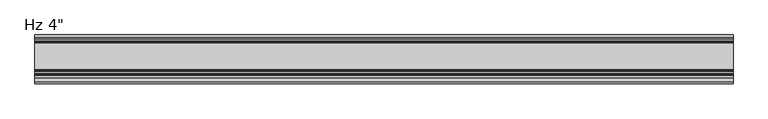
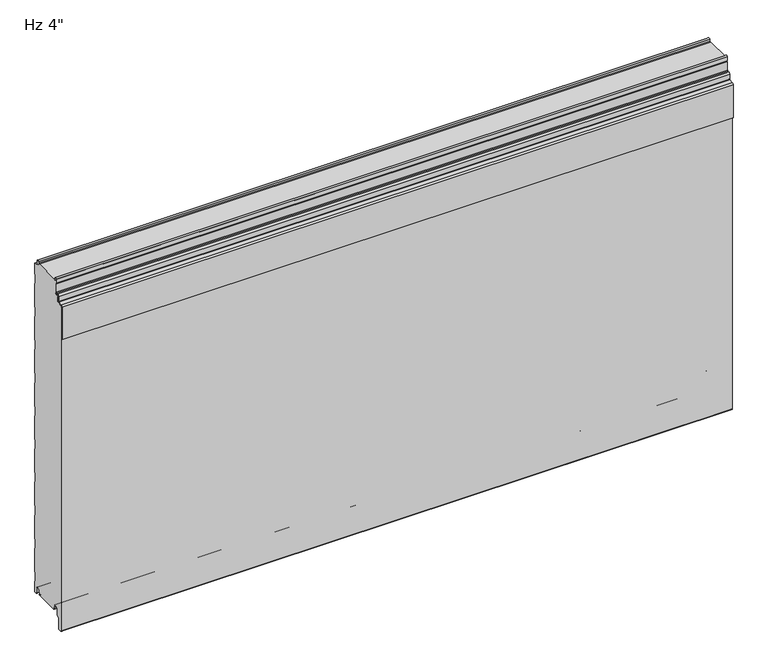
"""IFC4 building model written with IfcOpenShell, lengths in millimetres: plate geometry."""

from ifc_helpers import new_model, si_unit, frame, origin, place, context, project, spatial, polyline, circle_curve, source, transform, mapped, element, save
from ifc_brep_helpers import plane_surface, cylinder_surface, revolved_surface, advanced_brep


def plate_fbe25f83(model_context):
    return source(origin(), model_context, "Body", "AdvancedBrep", [
        advanced_brep(
        [(730.0, -80.5008679, 735.9534183), (730.0, -80.5008679, 754.6986183), (730.0, -82.0248679, 754.6986183), (730.0, -82.0248679, 735.9534183), (730.0, -83.5488679, 734.4294183), (730.0, -86.6476679, 734.4294183), (730.0, -90.1020679, 730.9750183), (730.0, -90.1020679, 719.762461), (730.0, -90.7976552, 719.0033606), (730.0, -100.3416507, 717.808533), (730.0, -103.124, 714.7721316), (730.0, -103.1360323, 639.2048183), (730.0, -101.6, 639.2048183), (730.0, -101.6, 714.7721316), (730.0, -100.2088254, 716.2903323), (730.0, -90.6648299, 717.4851599), (730.0, -88.5780679, 719.762461), (730.0, -88.5780679, 730.9750183), (730.0, -86.6476679, 732.9054183), (730.0, -83.5488679, 732.9054183), (-730.0, -80.5008679, 735.9534183), (-730.0, -83.5488679, 732.9054183), (-730.0, -86.6476679, 732.9054183), (-730.0, -88.5780679, 730.9750183), (-730.0, -88.5780679, 719.762461), (-730.0, -90.6648299, 717.4851599), (-730.0, -100.2088254, 716.2903323), (-730.0, -101.6, 714.7721316), (-730.0, -101.6, 639.2048183), (-730.0, -103.1360323, 639.2048183), (-730.0, -103.1360323, 714.7721316), (-730.0, -100.3416507, 717.808533), (-730.0, -90.7976552, 719.0033606), (-730.0, -90.1020679, 719.762461), (-730.0, -90.1020679, 730.9750183), (-730.0, -86.6476679, 734.4294183), (-730.0, -83.5488679, 734.4294183), (-730.0, -82.0248679, 735.9534183), (-730.0, -82.0248679, 754.6986183), (-730.0, -80.5008679, 754.6986183)],
        [
            (0, 1),
            (1, 2),
            (2, 3),
            (3, 4, circle_curve(frame((730.0, -83.5488679, 735.9534183), z_axis=(-1.0, 0.0, 0.0), x_axis=(0.0, 1.0, 0.0)), 1.524)),
            (4, 5),
            (5, 6, circle_curve(frame((730.0, -86.6476679, 730.9750183), z_axis=(1.0, 0.0, 0.0), x_axis=(0.0, 1.0, 0.0)), 3.4544)),
            (6, 7),
            (7, 8, circle_curve(frame((730.0, -90.8640679, 719.762461), z_axis=(-1.0, 0.0, 0.0), x_axis=(0.0, 1.0, 0.0)), 0.762)),
            (8, 9),
            (9, 10, circle_curve(frame((730.0, -100.076, 714.7721316), z_axis=(1.0, 0.0, 0.0), x_axis=(0.0, 1.0, 0.0)), 3.048)),
            (10, 11),
            (11, 12),
            (12, 13),
            (13, 14, circle_curve(frame((730.0, -100.076, 714.7721316), z_axis=(-1.0, 0.0, 0.0), x_axis=(0.0, 1.0, 0.0)), 1.524)),
            (14, 15),
            (15, 16, circle_curve(frame((730.0, -90.8640679, 719.762461), z_axis=(1.0, 0.0, 0.0), x_axis=(0.0, 1.0, 0.0)), 2.286)),
            (16, 17),
            (17, 18, circle_curve(frame((730.0, -86.6476679, 730.9750183), z_axis=(-1.0, 0.0, 0.0), x_axis=(0.0, 1.0, 0.0)), 1.9304)),
            (18, 19),
            (19, 0, circle_curve(frame((730.0, -83.5488679, 735.9534183), z_axis=(1.0, 0.0, 0.0), x_axis=(0.0, 1.0, 0.0)), 3.048)),
            (20, 21, circle_curve(frame((-730.0, -83.5488679, 735.9534183), z_axis=(-1.0, 0.0, 0.0), x_axis=(0.0, 1.0, 0.0)), 3.048)),
            (21, 22),
            (22, 23, circle_curve(frame((-730.0, -86.6476679, 730.9750183), z_axis=(1.0, 0.0, 0.0), x_axis=(0.0, 1.0, 0.0)), 1.9304)),
            (23, 24),
            (24, 25, circle_curve(frame((-730.0, -90.8640679, 719.762461), z_axis=(-1.0, 0.0, 0.0), x_axis=(0.0, 1.0, 0.0)), 2.286)),
            (25, 26),
            (26, 27, circle_curve(frame((-730.0, -100.076, 714.7721316), z_axis=(1.0, 0.0, 0.0), x_axis=(0.0, 1.0, 0.0)), 1.524)),
            (27, 28),
            (28, 29),
            (29, 30),
            (30, 31, circle_curve(frame((-730.0, -100.076, 714.7721316), z_axis=(-1.0, 0.0, 0.0), x_axis=(0.0, 1.0, 0.0)), 3.048)),
            (31, 32),
            (32, 33, circle_curve(frame((-730.0, -90.8640679, 719.762461), z_axis=(1.0, 0.0, 0.0), x_axis=(0.0, 1.0, 0.0)), 0.762)),
            (33, 34),
            (34, 35, circle_curve(frame((-730.0, -86.6476679, 730.9750183), z_axis=(-1.0, 0.0, 0.0), x_axis=(0.0, 1.0, 0.0)), 3.4544)),
            (35, 36),
            (36, 37, circle_curve(frame((-730.0, -83.5488679, 735.9534183), z_axis=(1.0, 0.0, 0.0), x_axis=(0.0, 1.0, 0.0)), 1.524)),
            (37, 38),
            (38, 39),
            (39, 20),
            (2, 38),
            (37, 3),
            (15, 25),
            (24, 16),
            (7, 33),
            (32, 8),
            (5, 35),
            (34, 6),
            (1, 39),
            (36, 4),
            (9, 31),
            (30, 10),
            (13, 27),
            (26, 14),
            (0, 20),
            (12, 28),
            (29, 11),
            (23, 17),
            (18, 22),
            (21, 19),
        ],
        [
            plane_surface(frame((730.0, -101.6, 754.6986183), z_axis=(1.0, 0.0, 0.0), x_axis=(0.0, 0.0, -1.0))),
            plane_surface(frame((-730.0, -101.6, 754.6986183), z_axis=(-1.0, 0.0, 0.0), x_axis=(0.0, 0.0, -1.0))),
            plane_surface(frame((730.0, -82.0248679, 735.9534183), z_axis=(0.0, -1.0, 0.0), x_axis=(-1.0, 0.0, 0.0))),
            cylinder_surface(frame((730.0, -90.8640679, 719.762461), z_axis=(1.0, 0.0, 0.0), x_axis=(0.0, 1.0, 0.0)), 2.286),
            revolved_surface(polyline([(-730.0, -90.1020679, 719.762461), (730.0, -90.1020679, 719.762461)]), (730.0, -90.8640679, 719.762461), (-1.0, 0.0, 0.0)),
            cylinder_surface(frame((730.0, -86.6476679, 730.9750183), z_axis=(1.0, 0.0, 0.0), x_axis=(0.0, 1.0, 0.0)), 3.4544),
            plane_surface(frame((730.0, -82.0248679, 754.6986183), z_axis=(0.0, 0.0, 1.0), x_axis=(-1.0, 0.0, 0.0))),
            revolved_surface(polyline([(-730.0, -82.0248679, 735.9534183), (730.0, -82.0248679, 735.9534183)]), (730.0, -83.5488679, 735.9534183), (-1.0, 0.0, 0.0)),
            cylinder_surface(frame((730.0, -100.076, 714.7721316), z_axis=(1.0, 0.0, 0.0), x_axis=(0.0, 1.0, 0.0)), 3.048),
            revolved_surface(polyline([(-730.0, -98.55199999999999, 714.7721316), (730.0, -98.55199999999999, 714.7721316)]), (730.0, -100.076, 714.7721316), (-1.0, 0.0, 0.0)),
            plane_surface(frame((730.0, -80.5008679, 754.6986183), z_axis=(0.0, 1.0, 0.0), x_axis=(-1.0, 0.0, 0.0))),
            plane_surface(frame((730.0, -90.6648299, 717.4851599), z_axis=(0.0, 0.12422187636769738, -0.9922544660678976), x_axis=(-1.0, 0.0, 0.0))),
            plane_surface(frame((730.0, -101.6, 714.7721316), z_axis=(0.0, 1.0, 0.0), x_axis=(-1.0, 0.0, 0.0))),
            plane_surface(frame((730.0, -100.3416507, 717.808533), z_axis=(0.0, -0.12422187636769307, 0.9922544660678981), x_axis=(-1.0, 0.0, 0.0))),
            plane_surface(frame((730.0, -86.6476679, 734.4294183), z_axis=(0.0, 0.0, 1.0), x_axis=(-1.0, 0.0, 0.0))),
            plane_surface(frame((730.0, -103.1360323, 639.2048183), z_axis=(0.0, -1.0, 0.0), x_axis=(-1.0, 0.0, 0.0))),
            plane_surface(frame((730.0, -101.6, 639.2048183), z_axis=(0.0, 0.0, -1.0), x_axis=(-1.0, 0.0, 0.0))),
            plane_surface(frame((730.0, -88.5780679, 730.9750183), z_axis=(0.0, 1.0, 0.0), x_axis=(-1.0, 0.0, 0.0))),
            plane_surface(frame((730.0, -83.5488679, 732.9054183), z_axis=(0.0, 0.0, -1.0), x_axis=(-1.0, 0.0, 0.0))),
            plane_surface(frame((730.0, -90.1020679, 719.762461), z_axis=(0.0, -1.0, 0.0), x_axis=(-1.0, 0.0, 0.0))),
            revolved_surface(polyline([(-730.0, -84.7172679, 730.9750183), (730.0, -84.7172679, 730.9750183)]), (730.0, -86.6476679, 730.9750183), (-1.0, 0.0, 0.0)),
            cylinder_surface(frame((730.0, -83.5488679, 735.9534183), z_axis=(1.0, 0.0, 0.0), x_axis=(0.0, 1.0, 0.0)), 3.048),
        ],
        [
            (0, [[1, 2, 3, 4, 5, 6, 7, 8, 9, 10, 11, 12, 13, 14, 15, 16, 17, 18, 19, 20]]),
            (1, [[21, 22, 23, 24, 25, 26, 27, 28, 29, 30, 31, 32, 33, 34, 35, 36, 37, 38, 39, 40]]),
            (2, [[41, -38, 42, -3]]),
            (3, [[43, -25, 44, -16]]),
            (4, [[45, -33, 46, -8]]),
            (5, [[47, -35, 48, -6]]),
            (6, [[49, -39, -41, -2]]),
            (7, [[-42, -37, 50, -4]]),
            (8, [[51, -31, 52, -10]]),
            (9, [[53, -27, 54, -14]]),
            (10, [[55, -40, -49, -1]]),
            (11, [[-54, -26, -43, -15]]),
            (12, [[56, -28, -53, -13]]),
            (13, [[-46, -32, -51, -9]]),
            (14, [[-50, -36, -47, -5]]),
            (15, [[-52, -30, 57, -11]]),
            (16, [[-57, -29, -56, -12]]),
            (17, [[-44, -24, 58, -17]]),
            (18, [[59, -22, 60, -19]]),
            (19, [[-48, -34, -45, -7]]),
            (20, [[-58, -23, -59, -18]]),
            (21, [[-60, -21, -55, -20]]),
        ],
    ),
        advanced_brep(
        [(-730.0, -73.270875, 1.0316999), (-730.0, -72.1014003, 2.2328239), (-730.0, -72.1014003, 5.9912173), (-730.0, -73.4998791, 5.9912173), (-730.0, -73.4998791, 8.6903283), (-730.0, -76.8498744, 12.0403236), (-730.0, -81.2498656, 12.0403236), (-730.0, -84.5998609, 8.6903283), (-730.0, -84.5998609, -3.1205608), (-730.0, -85.0977778, -4.3226385), (-730.0, -90.5998489, -9.8247096), (-730.0, -90.5998489, -31.9198392), (-730.0, -92.8184509, -34.5765709), (-730.0, -97.8002718, -35.0125699), (-730.0, -100.5945967, -32.4521176), (-730.0, -100.6, 713.515622), (-730.0, -98.8149259, 715.4669057), (-730.0, -90.3539491, 716.221161), (-730.0, -87.5906462, 719.3653654), (-730.0, -87.5906462, 729.4583308), (-730.0, -86.6392375, 730.4097394), (-730.0, -83.4955822, 730.4097394), (-730.0, -79.4961292, 734.4091924), (-730.0, -79.4961292, 755.5895515), (-730.0, -81.476977, 756.7334028), (-730.0, -81.1217167, 765.706811), (-730.0, -76.9211391, 765.7037148), (-730.0, -76.6767242, 761.6977997), (-730.0, -74.8819116, 759.9686884), (-730.0, -72.097365, 759.9686884), (-730.0, -72.097365, 760.9686884), (-730.0, -73.684865, 760.9686884), (-730.0, -72.6535534, 762.0), (-730.0, -18.6184525, 762.0), (-730.0, -17.5871409, 760.9686884), (-730.0, -19.0015288, 760.9686884), (-730.0, -19.0015288, 759.9686884), (-730.0, -16.6743462, 759.9686884), (-730.0, -14.9256429, 761.6513685), (-730.0, -14.7059822, 765.7921924), (-730.0, -10.4046442, 765.7931719), (-730.0, -9.9974365, 757.3016499), (-730.0, -6.0026007, 753.4787013), (-730.0, -1.0, 753.4787013), (-730.0, -1.0, 728.9790963), (-730.0, -2.2002307, 727.5934634), (-730.0, -2.2002307, 708.2182971), (-730.0, -1.0, 706.8326641), (-730.0, -1.0, 652.7792487), (-730.0, -2.2002307, 651.3936158), (-730.0, -2.2002307, 632.0184495), (-730.0, -1.0, 630.6328165), (-730.0, -1.0, 576.5794011), (-730.0, -2.2002307, 575.1937682), (-730.0, -2.2002307, 555.8186019), (-730.0, -1.0, 554.4329689), (-730.0, -1.0, 500.3795535), (-730.0, -2.2002307, 498.9939206), (-730.0, -2.2002307, 479.6187543), (-730.0, -1.0, 478.2331213), (-730.0, -1.0, 424.1797059), (-730.0, -2.2002307, 422.794073), (-730.0, -2.2002307, 403.4189067), (-730.0, -1.0, 402.0332737), (-730.0, -1.0, 347.9798583), (-730.0, -2.2002307, 346.5942254), (-730.0, -2.2002307, 327.2190591), (-730.0, -1.0, 325.8334261), (-730.0, -1.0, 271.7800107), (-730.0, -2.2002307, 270.3943778), (-730.0, -2.2002307, 251.0192115), (-730.0, -1.0, 249.6335785), (-730.0, -1.0, 195.5801631), (-730.0, -2.2002307, 194.1945302), (-730.0, -2.2002307, 174.8193639), (-730.0, -1.0, 173.4337309), (-730.0, -1.0, 119.3803155), (-730.0, -2.2002307, 117.9946826), (-730.0, -2.2002307, 98.6195163), (-730.0, -1.0, 97.2338833), (-730.0, -1.0, 43.1804679), (-730.0, -2.2002307, 41.794835), (-730.0, -2.2002307, 22.4196687), (-730.0, -0.9999916, 21.034026), (-730.0, -0.9999916, -3.4662506), (-730.0, -5.2315389, -3.4662506), (-730.0, -7.0015331, -1.6962564), (-730.0, -7.0015331, 8.7237222), (-730.0, -10.301529, 12.023718), (-730.0, -14.7015202, 12.023718), (-730.0, -18.0015159, 8.7237223), (-730.0, -18.0015159, 6.0315125), (-730.0, -19.0015105, 6.0315125), (-730.0, -19.0015105, 2.0313089), (-730.0, -18.0015192, 1.0313117), (-730.0, -19.0328308, 0.0), (-730.0, -72.2391751, 0.0), (730.0, -73.270875, 1.0316999), (730.0, -72.2391751, 0.0), (730.0, -19.0328308, 0.0), (730.0, -18.0015192, 1.0313117), (730.0, -19.0015105, 2.0313089), (730.0, -19.0015105, 6.0315125), (730.0, -18.0015159, 6.0315125), (730.0, -18.0015159, 8.7237223), (730.0, -14.7015202, 12.023718), (730.0, -10.301529, 12.023718), (730.0, -7.0015331, 8.7237222), (730.0, -7.0015331, -1.6962564), (730.0, -5.2315389, -3.4662506), (730.0, -0.9999916, -3.4662506), (730.0, -0.9999916, 21.034026), (730.0, -2.2002307, 22.4196687), (730.0, -2.2002307, 41.794835), (730.0, -1.0, 43.1804679), (730.0, -1.0, 97.2338833), (730.0, -2.2002307, 98.6195163), (730.0, -2.2002307, 117.9946826), (730.0, -1.0, 119.3803155), (730.0, -1.0, 173.4337309), (730.0, -2.2002307, 174.8193639), (730.0, -2.2002307, 194.1945302), (730.0, -1.0, 195.5801631), (730.0, -1.0, 249.6335785), (730.0, -2.2002307, 251.0192115), (730.0, -2.2002307, 270.3943778), (730.0, -1.0, 271.7800107), (730.0, -1.0, 325.8334261), (730.0, -2.2002307, 327.2190591), (730.0, -2.2002307, 346.5942254), (730.0, -1.0, 347.9798583), (730.0, -1.0, 402.0332737), (730.0, -2.2002307, 403.4189067), (730.0, -2.2002307, 422.794073), (730.0, -1.0, 424.1797059), (730.0, -1.0, 478.2331213), (730.0, -2.2002307, 479.6187543), (730.0, -2.2002307, 498.9939206), (730.0, -1.0, 500.3795535), (730.0, -1.0, 554.4329689), (730.0, -2.2002307, 555.8186019), (730.0, -2.2002307, 575.1937682), (730.0, -1.0, 576.5794011), (730.0, -1.0, 630.6328165), (730.0, -2.2002307, 632.0184495), (730.0, -2.2002307, 651.3936158), (730.0, -1.0, 652.7792487), (730.0, -1.0, 706.8326641), (730.0, -2.2002307, 708.2182971), (730.0, -2.2002307, 727.5934634), (730.0, -1.0, 728.9790963), (730.0, -1.0, 753.4787013), (730.0, -6.0026007, 753.4787013), (730.0, -9.9974365, 757.3016499), (730.0, -10.4046442, 765.7931719), (730.0, -14.7059822, 765.7921924), (730.0, -14.9256429, 761.6513685), (730.0, -16.6743462, 759.9686884), (730.0, -19.0015288, 759.9686884), (730.0, -19.0015288, 760.9686884), (730.0, -17.5871409, 760.9686884), (730.0, -18.6184525, 762.0), (730.0, -72.6535534, 762.0), (730.0, -73.684865, 760.9686884), (730.0, -72.097365, 760.9686884), (730.0, -72.097365, 759.9686884), (730.0, -74.8819116, 759.9686884), (730.0, -76.6767242, 761.6977997), (730.0, -76.9211391, 765.7037148), (730.0, -81.1217167, 765.706811), (730.0, -81.476977, 756.7334028), (730.0, -79.4961292, 755.5895515), (730.0, -79.4961292, 734.4091924), (730.0, -83.4955822, 730.4097394), (730.0, -86.6392375, 730.4097394), (730.0, -87.5906462, 729.4583308), (730.0, -87.5906462, 719.3653654), (730.0, -90.3539491, 716.221161), (730.0, -98.8149259, 715.4669057), (730.0, -100.6, 713.515622), (730.0, -100.6, -32.4521176), (730.0, -97.8002718, -35.0125699), (730.0, -92.8184509, -34.5765709), (730.0, -90.5998489, -31.9198392), (730.0, -90.5998489, -9.8247096), (730.0, -85.0977778, -4.3226385), (730.0, -84.5998609, -3.1205608), (730.0, -84.5998609, 8.6903283), (730.0, -81.2498656, 12.0403236), (730.0, -76.8498744, 12.0403236), (730.0, -73.4998791, 8.6903283), (730.0, -73.4998791, 5.9912173), (730.0, -72.1014003, 5.9912173), (730.0, -72.1014003, 2.2328239)],
        [
            (0, 1, circle_curve(frame((-730.0, -73.3013969, 2.2313092), z_axis=(1.0, 0.0, 0.0), x_axis=(0.0, 0.0, -1.0)), 1.1999976)),
            (1, 2),
            (2, 3),
            (3, 4),
            (4, 5, circle_curve(frame((-730.0, -76.8498744, 8.6903283), z_axis=(1.0, 0.0, 0.0), x_axis=(0.0, 0.0, -1.0)), 3.3499953)),
            (5, 6),
            (6, 7, circle_curve(frame((-730.0, -81.2498656, 8.6903283), z_axis=(1.0, 0.0, 0.0), x_axis=(0.0, 0.0, -1.0)), 3.3499953)),
            (7, 8),
            (8, 9, circle_curve(frame((-730.0, -86.2998555, -3.1205608), z_axis=(-1.0, 0.0, 0.0), x_axis=(0.0, 0.0, -1.0)), 1.6999946)),
            (9, 10),
            (10, 11),
            (11, 12, circle_curve(frame((-730.0, -93.2998415, -31.9198392), z_axis=(-1.0, 0.0, 0.0), x_axis=(0.0, 0.0, -1.0)), 2.6999926)),
            (12, 13),
            (13, 14, circle_curve(frame((-730.0, -98.0243575, -32.4521176), z_axis=(-1.0, 0.0, 0.0), x_axis=(0.0, 0.0, -1.0)), 2.5702393)),
            (14, 15),
            (15, 16, circle_curve(frame((-730.0, -98.6409784, 713.515622), z_axis=(-1.0, 0.0, 0.0), x_axis=(0.0, 0.0, -1.0)), 1.9590216)),
            (16, 17),
            (17, 18, circle_curve(frame((-730.0, -90.6180321, 719.2396267), z_axis=(1.0, 0.0, 0.0), x_axis=(0.0, 0.0, -1.0)), 3.0299959)),
            (18, 19),
            (19, 20, circle_curve(frame((-730.0, -86.6392375, 729.4583308), z_axis=(-1.0, 0.0, 0.0), x_axis=(0.0, 0.0, -1.0)), 0.9514087)),
            (20, 21),
            (21, 22, circle_curve(frame((-730.0, -83.4955822, 734.4091924), z_axis=(1.0, 0.0, 0.0), x_axis=(0.0, 0.0, -1.0)), 3.9994529)),
            (22, 23),
            (23, 24),
            (24, 25),
            (25, 26, circle_curve(frame((-730.0, -79.021488, 765.6236622), z_axis=(-1.0, 0.0, 0.0), x_axis=(0.0, 0.0, -1.0)), 2.1018739)),
            (26, 27),
            (27, 28, circle_curve(frame((-730.0, -74.8383506, 761.8099653), z_axis=(1.0, 0.0, 0.0), x_axis=(0.0, 0.0, -1.0)), 1.8417922)),
            (28, 29),
            (29, 30),
            (30, 31),
            (31, 32),
            (32, 33),
            (33, 34),
            (34, 35),
            (35, 36),
            (36, 37),
            (37, 38, circle_curve(frame((-730.0, -16.6743462, 761.7186869), z_axis=(1.0, 0.0, 0.0), x_axis=(0.0, 0.0, 1.0)), 1.7499985)),
            (38, 39),
            (39, 40, circle_curve(frame((-730.0, -12.5552871, 765.6781032), z_axis=(-1.0, 0.0, 0.0), x_axis=(0.0, 0.0, 1.0)), 2.153719)),
            (40, 41),
            (41, 42, circle_curve(frame((-730.0, -5.9867338, 757.4939817), z_axis=(1.0, 0.0, 0.0), x_axis=(0.0, 0.0, 1.0)), 4.0153117)),
            (42, 43),
            (43, 44),
            (44, 45),
            (45, 46),
            (46, 47),
            (47, 48),
            (48, 49),
            (49, 50),
            (50, 51),
            (51, 52),
            (52, 53),
            (53, 54),
            (54, 55),
            (55, 56),
            (56, 57),
            (57, 58),
            (58, 59),
            (59, 60),
            (60, 61),
            (61, 62),
            (62, 63),
            (63, 64),
            (64, 65),
            (65, 66),
            (66, 67),
            (67, 68),
            (68, 69),
            (69, 70),
            (70, 71),
            (71, 72),
            (72, 73),
            (73, 74),
            (74, 75),
            (75, 76),
            (76, 77),
            (77, 78),
            (78, 79),
            (79, 80),
            (80, 81),
            (81, 82),
            (82, 83),
            (83, 84),
            (84, 85),
            (85, 86, circle_curve(frame((-730.0, -5.2315389, -1.6962564), z_axis=(-1.0, 0.0, 0.0), x_axis=(0.0, 0.0, 1.0)), 1.7699942)),
            (86, 87),
            (87, 88, circle_curve(frame((-730.0, -10.301529, 8.7237222), z_axis=(1.0, 0.0, 0.0), x_axis=(0.0, 0.0, 1.0)), 3.2999959)),
            (88, 89),
            (89, 90, circle_curve(frame((-730.0, -14.7015202, 8.7237223), z_axis=(1.0, 0.0, 0.0), x_axis=(0.0, 0.0, 1.0)), 3.2999957)),
            (90, 91),
            (91, 92),
            (92, 93),
            (93, 94, circle_curve(frame((-730.0, -18.0015133, 2.0313089), z_axis=(1.0, 0.0, 0.0), x_axis=(0.0, 0.0, 1.0)), 0.9999972)),
            (94, 95),
            (95, 96),
            (96, 0),
            (97, 98),
            (98, 99),
            (99, 100),
            (100, 101, circle_curve(frame((730.0, -18.0015133, 2.0313089), z_axis=(-1.0, 0.0, 0.0), x_axis=(0.0, 0.0, 1.0)), 0.9999972)),
            (101, 102),
            (102, 103),
            (103, 104),
            (104, 105, circle_curve(frame((730.0, -14.7015202, 8.7237223), z_axis=(-1.0, 0.0, 0.0), x_axis=(0.0, 0.0, 1.0)), 3.2999957)),
            (105, 106),
            (106, 107, circle_curve(frame((730.0, -10.301529, 8.7237222), z_axis=(-1.0, 0.0, 0.0), x_axis=(0.0, 0.0, 1.0)), 3.2999959)),
            (107, 108),
            (108, 109, circle_curve(frame((730.0, -5.2315389, -1.6962564), z_axis=(1.0, 0.0, 0.0), x_axis=(0.0, 0.0, 1.0)), 1.7699942)),
            (109, 110),
            (110, 111),
            (111, 112),
            (112, 113),
            (113, 114),
            (114, 115),
            (115, 116),
            (116, 117),
            (117, 118),
            (118, 119),
            (119, 120),
            (120, 121),
            (121, 122),
            (122, 123),
            (123, 124),
            (124, 125),
            (125, 126),
            (126, 127),
            (127, 128),
            (128, 129),
            (129, 130),
            (130, 131),
            (131, 132),
            (132, 133),
            (133, 134),
            (134, 135),
            (135, 136),
            (136, 137),
            (137, 138),
            (138, 139),
            (139, 140),
            (140, 141),
            (141, 142),
            (142, 143),
            (143, 144),
            (144, 145),
            (145, 146),
            (146, 147),
            (147, 148),
            (148, 149),
            (149, 150),
            (150, 151),
            (151, 152),
            (152, 153, circle_curve(frame((730.0, -5.9867338, 757.4939817), z_axis=(-1.0, 0.0, 0.0), x_axis=(0.0, 0.0, 1.0)), 4.0153117)),
            (153, 154),
            (154, 155, circle_curve(frame((730.0, -12.5552871, 765.6781032), z_axis=(1.0, 0.0, 0.0), x_axis=(0.0, 0.0, 1.0)), 2.153719)),
            (155, 156),
            (156, 157, circle_curve(frame((730.0, -16.6743462, 761.7186869), z_axis=(-1.0, 0.0, 0.0), x_axis=(0.0, 0.0, 1.0)), 1.7499985)),
            (157, 158),
            (158, 159),
            (159, 160),
            (160, 161),
            (161, 162),
            (162, 163),
            (163, 164),
            (164, 165),
            (165, 166),
            (166, 167, circle_curve(frame((730.0, -74.8383506, 761.8099653), z_axis=(-1.0, 0.0, 0.0), x_axis=(0.0, 0.0, -1.0)), 1.8417922)),
            (167, 168),
            (168, 169, circle_curve(frame((730.0, -79.021488, 765.6236622), z_axis=(1.0, 0.0, 0.0), x_axis=(0.0, 0.0, -1.0)), 2.1018739)),
            (169, 170),
            (170, 171),
            (171, 172),
            (172, 173, circle_curve(frame((730.0, -83.4955822, 734.4091924), z_axis=(-1.0, 0.0, 0.0), x_axis=(0.0, 0.0, -1.0)), 3.9994529)),
            (173, 174),
            (174, 175, circle_curve(frame((730.0, -86.6392375, 729.4583308), z_axis=(1.0, 0.0, 0.0), x_axis=(0.0, 0.0, -1.0)), 0.9514087)),
            (175, 176),
            (176, 177, circle_curve(frame((730.0, -90.6180321, 719.2396267), z_axis=(-1.0, 0.0, 0.0), x_axis=(0.0, 0.0, -1.0)), 3.0299959)),
            (177, 178),
            (178, 179, circle_curve(frame((730.0, -98.6409784, 713.515622), z_axis=(1.0, 0.0, 0.0), x_axis=(0.0, 0.0, -1.0)), 1.9590216)),
            (179, 180),
            (180, 181, circle_curve(frame((730.0, -98.0243575, -32.4521176), z_axis=(1.0, 0.0, 0.0), x_axis=(0.0, 0.0, -1.0)), 2.5702393)),
            (181, 182),
            (182, 183, circle_curve(frame((730.0, -93.2998415, -31.9198392), z_axis=(1.0, 0.0, 0.0), x_axis=(0.0, 0.0, -1.0)), 2.6999926)),
            (183, 184),
            (184, 185),
            (185, 186, circle_curve(frame((730.0, -86.2998555, -3.1205608), z_axis=(1.0, 0.0, 0.0), x_axis=(0.0, 0.0, -1.0)), 1.6999946)),
            (186, 187),
            (187, 188, circle_curve(frame((730.0, -81.2498656, 8.6903283), z_axis=(-1.0, 0.0, 0.0), x_axis=(0.0, 0.0, -1.0)), 3.3499953)),
            (188, 189),
            (189, 190, circle_curve(frame((730.0, -76.8498744, 8.6903283), z_axis=(-1.0, 0.0, 0.0), x_axis=(0.0, 0.0, -1.0)), 3.3499953)),
            (190, 191),
            (191, 192),
            (192, 193),
            (193, 97, circle_curve(frame((730.0, -73.3013969, 2.2313092), z_axis=(-1.0, 0.0, 0.0), x_axis=(0.0, 0.0, -1.0)), 1.1999976)),
            (96, 98),
            (97, 0),
            (95, 99),
            (32, 162),
            (161, 33),
            (31, 163),
            (30, 164),
            (29, 165),
            (28, 166),
            (27, 167),
            (26, 168),
            (25, 169),
            (24, 170),
            (23, 171),
            (22, 172),
            (21, 173),
            (20, 174),
            (19, 175),
            (18, 176),
            (17, 177),
            (16, 178),
            (15, 179),
            (14, 180),
            (13, 181),
            (12, 182),
            (11, 183),
            (10, 184),
            (9, 185),
            (8, 186),
            (7, 187),
            (6, 188),
            (5, 189),
            (4, 190),
            (3, 191),
            (2, 192),
            (1, 193),
            (94, 100),
            (93, 101),
            (92, 102),
            (91, 103),
            (90, 104),
            (89, 105),
            (88, 106),
            (87, 107),
            (86, 108),
            (85, 109),
            (84, 110),
            (83, 111),
            (82, 112),
            (81, 113),
            (80, 114),
            (79, 115),
            (78, 116),
            (77, 117),
            (76, 118),
            (75, 119),
            (74, 120),
            (73, 121),
            (72, 122),
            (71, 123),
            (70, 124),
            (69, 125),
            (68, 126),
            (67, 127),
            (66, 128),
            (65, 129),
            (64, 130),
            (63, 131),
            (62, 132),
            (61, 133),
            (60, 134),
            (59, 135),
            (58, 136),
            (57, 137),
            (56, 138),
            (55, 139),
            (54, 140),
            (53, 141),
            (52, 142),
            (51, 143),
            (50, 144),
            (49, 145),
            (48, 146),
            (47, 147),
            (46, 148),
            (45, 149),
            (44, 150),
            (43, 151),
            (42, 152),
            (41, 153),
            (40, 154),
            (39, 155),
            (38, 156),
            (37, 157),
            (36, 158),
            (35, 159),
            (34, 160),
        ],
        [
            plane_surface(frame((-730.0, -100.6, 381.0), z_axis=(-1.0, 0.0, 0.0), x_axis=(0.0, -1.0, 0.0))),
            plane_surface(frame((730.0, -100.6, 381.0), z_axis=(1.0, 0.0, 0.0), x_axis=(0.0, -1.0, 0.0))),
            plane_surface(frame((-730.0, -73.270875, 1.0316999), z_axis=(0.0, -0.7071067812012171, -0.707106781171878), x_axis=(1.0, 0.0, 0.0))),
            plane_surface(frame((-730.0, -72.2391751, 0.0), z_axis=(0.0, 0.0, -1.0), x_axis=(1.0, 0.0, 0.0))),
            plane_surface(frame((-730.0, -71.2391751, 762.0), z_axis=(0.0, 0.0, 1.0), x_axis=(1.0, 0.0, 0.0))),
            plane_surface(frame((-730.0, -72.6535534, 762.0), z_axis=(0.0, -0.7071067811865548, 0.7071067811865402), x_axis=(1.0, 0.0, 0.0))),
            plane_surface(frame((-730.0, -73.684865, 760.9686884), z_axis=(0.0, 0.0, -1.0), x_axis=(1.0, 0.0, 0.0))),
            plane_surface(frame((-730.0, -72.097365, 760.9686884), z_axis=(0.0, -1.0, 0.0), x_axis=(1.0, 0.0, 0.0))),
            plane_surface(frame((-730.0, -72.097365, 759.9686884), z_axis=(0.0, 0.0, 1.0), x_axis=(1.0, 0.0, 0.0))),
            revolved_surface(polyline([(730.0, -74.8383506, 759.9681731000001), (-730.0, -74.8383506, 759.9681731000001)]), (-730.0, -74.8383506, 761.8099653), (1.0, 0.0, 0.0)),
            plane_surface(frame((-730.0, -76.6767242, 761.6977997), z_axis=(0.0, 0.9981438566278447, 0.06090025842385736), x_axis=(1.0, 0.0, 0.0))),
            cylinder_surface(frame((-730.0, -79.021488, 765.6236622), z_axis=(-1.0, 0.0, 0.0), x_axis=(0.0, 0.0, -1.0)), 2.1018739),
            plane_surface(frame((-730.0, -81.1217167, 765.706811), z_axis=(0.0, -0.9992172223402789, 0.03955935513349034), x_axis=(1.0, 0.0, 0.0))),
            plane_surface(frame((-730.0, -81.476977, 756.7334028), z_axis=(0.0, -0.5000682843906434, -0.865985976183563), x_axis=(1.0, 0.0, 0.0))),
            plane_surface(frame((-730.0, -79.4961292, 755.5895515), z_axis=(0.0, -1.0, 0.0), x_axis=(1.0, 0.0, 0.0))),
            revolved_surface(polyline([(730.0, -83.4955822, 730.4097395), (-730.0, -83.4955822, 730.4097395)]), (-730.0, -83.4955822, 734.4091924), (1.0, 0.0, 0.0)),
            plane_surface(frame((-730.0, -83.4955822, 730.4097394), z_axis=(0.0, 0.0, 1.0), x_axis=(1.0, 0.0, 0.0))),
            cylinder_surface(frame((-730.0, -86.6392375, 729.4583308), z_axis=(-1.0, 0.0, 0.0), x_axis=(0.0, 0.0, -1.0)), 0.9514087),
            plane_surface(frame((-730.0, -87.5906462, 729.4583308), z_axis=(0.0, -1.0, 0.0), x_axis=(1.0, 0.0, 0.0))),
            revolved_surface(polyline([(730.0, -90.6180321, 716.2096308), (-730.0, -90.6180321, 716.2096308)]), (-730.0, -90.6180321, 719.2396267), (1.0, 0.0, 0.0)),
            plane_surface(frame((-730.0, -90.3539491, 716.221161), z_axis=(0.0, -0.08879306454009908, 0.9960500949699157), x_axis=(1.0, 0.0, 0.0))),
            cylinder_surface(frame((-730.0, -98.6409784, 713.515622), z_axis=(-1.0, 0.0, 0.0), x_axis=(0.0, 0.0, -1.0)), 1.9590216),
            plane_surface(frame((-730.0, -100.6, 713.515622), z_axis=(0.0, -1.0, 0.0), x_axis=(1.0, 0.0, 0.0))),
            cylinder_surface(frame((-730.0, -98.0243575, -32.4521176), z_axis=(-1.0, 0.0, 0.0), x_axis=(0.0, 0.0, -1.0)), 2.5702393),
            plane_surface(frame((-730.0, -97.8002718, -35.0125699), z_axis=(0.0, 0.08718474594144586, -0.9961921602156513), x_axis=(1.0, 0.0, 0.0))),
            cylinder_surface(frame((-730.0, -93.2998415, -31.9198392), z_axis=(-1.0, 0.0, 0.0), x_axis=(0.0, 0.0, -1.0)), 2.6999926),
            plane_surface(frame((-730.0, -90.5998489, -31.9198392), z_axis=(0.0, 1.0, 0.0), x_axis=(1.0, 0.0, 0.0))),
            plane_surface(frame((-730.0, -90.5998489, -9.8247096), z_axis=(0.0, 0.7071067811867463, -0.7071067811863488), x_axis=(1.0, 0.0, 0.0))),
            cylinder_surface(frame((-730.0, -86.2998555, -3.1205608), z_axis=(-1.0, 0.0, 0.0), x_axis=(0.0, 0.0, -1.0)), 1.6999946),
            plane_surface(frame((-730.0, -84.5998609, -3.1205608), z_axis=(0.0, 1.0, 0.0), x_axis=(1.0, 0.0, 0.0))),
            revolved_surface(polyline([(730.0, -81.2498656, 5.340332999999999), (-730.0, -81.2498656, 5.340332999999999)]), (-730.0, -81.2498656, 8.6903283), (1.0, 0.0, 0.0)),
            plane_surface(frame((-730.0, -81.2498656, 12.0403236), z_axis=(0.0, 0.0, -1.0), x_axis=(1.0, 0.0, 0.0))),
            revolved_surface(polyline([(730.0, -76.8498744, 5.340332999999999), (-730.0, -76.8498744, 5.340332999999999)]), (-730.0, -76.8498744, 8.6903283), (1.0, 0.0, 0.0)),
            plane_surface(frame((-730.0, -73.4998791, 8.6903283), z_axis=(0.0, -1.0, 0.0), x_axis=(1.0, 0.0, 0.0))),
            plane_surface(frame((-730.0, -73.4998791, 5.9912173), z_axis=(0.0, 0.0, -1.0), x_axis=(1.0, 0.0, 0.0))),
            plane_surface(frame((-730.0, -72.1014003, 5.9912173), z_axis=(0.0, -1.0, 0.0), x_axis=(1.0, 0.0, 0.0))),
            revolved_surface(polyline([(730.0, -73.3013969, 1.0313116), (-730.0, -73.3013969, 1.0313116)]), (-730.0, -73.3013969, 2.2313092), (1.0, 0.0, 0.0)),
            plane_surface(frame((-730.0, -19.0328308, 0.0), z_axis=(0.0, 0.7071067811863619, -0.7071067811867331), x_axis=(1.0, 0.0, 0.0))),
            revolved_surface(polyline([(730.0, -18.0015133, 3.0313061), (-730.0, -18.0015133, 3.0313061)]), (-730.0, -18.0015133, 2.0313089), (1.0, 0.0, 0.0)),
            plane_surface(frame((-730.0, -19.0015105, 2.0313089), z_axis=(0.0, 1.0, 0.0), x_axis=(1.0, 0.0, 0.0))),
            plane_surface(frame((-730.0, -19.0015105, 6.0315125), z_axis=(0.0, 0.0, -1.0), x_axis=(1.0, 0.0, 0.0))),
            plane_surface(frame((-730.0, -18.0015159, 6.0315125), z_axis=(0.0, 1.0, 0.0), x_axis=(1.0, 0.0, 0.0))),
            revolved_surface(polyline([(730.0, -14.7015202, 12.023718), (-730.0, -14.7015202, 12.023718)]), (-730.0, -14.7015202, 8.7237223), (1.0, 0.0, 0.0)),
            plane_surface(frame((-730.0, -14.7015202, 12.023718), z_axis=(0.0, 0.0, -1.0), x_axis=(1.0, 0.0, 0.0))),
            revolved_surface(polyline([(730.0, -10.301529, 12.0237181), (-730.0, -10.301529, 12.0237181)]), (-730.0, -10.301529, 8.7237222), (1.0, 0.0, 0.0)),
            plane_surface(frame((-730.0, -7.0015331, 8.7237222), z_axis=(0.0, -1.0, 0.0), x_axis=(1.0, 0.0, 0.0))),
            cylinder_surface(frame((-730.0, -5.2315389, -1.6962564), z_axis=(-1.0, 0.0, 0.0), x_axis=(0.0, 0.0, 1.0)), 1.7699942),
            plane_surface(frame((-730.0, -5.2315389, -3.4662506), z_axis=(0.0, 0.0, -1.0), x_axis=(1.0, 0.0, 0.0))),
            plane_surface(frame((-730.0, -0.9999916, -3.4662506), z_axis=(0.0, 1.0, 0.0), x_axis=(1.0, 0.0, 0.0))),
            plane_surface(frame((-730.0, -0.9999916, 21.034026), z_axis=(0.0, 0.7558648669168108, 0.6547276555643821), x_axis=(1.0, 0.0, 0.0))),
            plane_surface(frame((-730.0, -2.2002307, 22.4196687), z_axis=(0.0, 1.0, 0.0), x_axis=(1.0, 0.0, 0.0))),
            plane_surface(frame((-730.0, -2.2002307, 41.794835), z_axis=(0.0, 0.7558648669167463, -0.6547276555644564), x_axis=(1.0, 0.0, 0.0))),
            plane_surface(frame((-730.0, -1.0, 43.1804679), z_axis=(0.0, 1.0, 0.0), x_axis=(1.0, 0.0, 0.0))),
            plane_surface(frame((-730.0, -1.0, 97.2338833), z_axis=(0.0, 0.7558648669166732, 0.6547276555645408), x_axis=(1.0, 0.0, 0.0))),
            plane_surface(frame((-730.0, -2.2002307, 98.6195163), z_axis=(0.0, 1.0, 0.0), x_axis=(1.0, 0.0, 0.0))),
            plane_surface(frame((-730.0, -2.2002307, 117.9946826), z_axis=(0.0, 0.7558648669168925, -0.6547276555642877), x_axis=(1.0, 0.0, 0.0))),
            plane_surface(frame((-730.0, -1.0, 119.3803155), z_axis=(0.0, 1.0, 0.0), x_axis=(1.0, 0.0, 0.0))),
            plane_surface(frame((-730.0, -1.0, 173.4337309), z_axis=(0.0, 0.7558648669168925, 0.6547276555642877), x_axis=(1.0, 0.0, 0.0))),
            plane_surface(frame((-730.0, -2.2002307, 174.8193639), z_axis=(0.0, 1.0, 0.0), x_axis=(1.0, 0.0, 0.0))),
            plane_surface(frame((-730.0, -2.2002307, 194.1945302), z_axis=(0.0, 0.7558648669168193, -0.6547276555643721), x_axis=(1.0, 0.0, 0.0))),
            plane_surface(frame((-730.0, -1.0, 195.5801631), z_axis=(0.0, 1.0, 0.0), x_axis=(1.0, 0.0, 0.0))),
            plane_surface(frame((-730.0, -1.0, 249.6335785), z_axis=(0.0, 0.7558648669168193, 0.6547276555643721), x_axis=(1.0, 0.0, 0.0))),
            plane_surface(frame((-730.0, -2.2002307, 251.0192115), z_axis=(0.0, 1.0, 0.0), x_axis=(1.0, 0.0, 0.0))),
            plane_surface(frame((-730.0, -2.2002307, 270.3943778), z_axis=(0.0, 0.7558648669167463, -0.6547276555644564), x_axis=(1.0, 0.0, 0.0))),
            plane_surface(frame((-730.0, -1.0, 271.7800107), z_axis=(0.0, 1.0, 0.0), x_axis=(1.0, 0.0, 0.0))),
            plane_surface(frame((-730.0, -1.0, 325.8334261), z_axis=(0.0, 0.7558648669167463, 0.6547276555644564), x_axis=(1.0, 0.0, 0.0))),
            plane_surface(frame((-730.0, -2.2002307, 327.2190591), z_axis=(0.0, 1.0, 0.0), x_axis=(1.0, 0.0, 0.0))),
            plane_surface(frame((-730.0, -2.2002307, 346.5942254), z_axis=(0.0, 0.7558648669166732, -0.6547276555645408), x_axis=(1.0, 0.0, 0.0))),
            plane_surface(frame((-730.0, -1.0, 347.9798583), z_axis=(0.0, 1.0, 0.0), x_axis=(1.0, 0.0, 0.0))),
            plane_surface(frame((-730.0, -1.0, 402.0332737), z_axis=(0.0, 0.7558648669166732, 0.6547276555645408), x_axis=(1.0, 0.0, 0.0))),
            plane_surface(frame((-730.0, -2.2002307, 403.4189067), z_axis=(0.0, 1.0, 0.0), x_axis=(1.0, 0.0, 0.0))),
            plane_surface(frame((-730.0, -2.2002307, 422.794073), z_axis=(0.0, 0.755864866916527, -0.6547276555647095), x_axis=(1.0, 0.0, 0.0))),
            plane_surface(frame((-730.0, -1.0, 424.1797059), z_axis=(0.0, 1.0, 0.0), x_axis=(1.0, 0.0, 0.0))),
            plane_surface(frame((-730.0, -1.0, 478.2331213), z_axis=(0.0, 0.755864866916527, 0.6547276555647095), x_axis=(1.0, 0.0, 0.0))),
            plane_surface(frame((-730.0, -2.2002307, 479.6187543), z_axis=(0.0, 1.0, 0.0), x_axis=(1.0, 0.0, 0.0))),
            plane_surface(frame((-730.0, -2.2002307, 498.9939206), z_axis=(0.0, 0.755864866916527, -0.6547276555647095), x_axis=(1.0, 0.0, 0.0))),
            plane_surface(frame((-730.0, -1.0, 500.3795535), z_axis=(0.0, 1.0, 0.0), x_axis=(1.0, 0.0, 0.0))),
            plane_surface(frame((-730.0, -1.0, 554.4329689), z_axis=(0.0, 0.755864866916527, 0.6547276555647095), x_axis=(1.0, 0.0, 0.0))),
            plane_surface(frame((-730.0, -2.2002307, 555.8186019), z_axis=(0.0, 1.0, 0.0), x_axis=(1.0, 0.0, 0.0))),
            plane_surface(frame((-730.0, -2.2002307, 575.1937682), z_axis=(0.0, 0.7558648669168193, -0.6547276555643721), x_axis=(1.0, 0.0, 0.0))),
            plane_surface(frame((-730.0, -1.0, 576.5794011), z_axis=(0.0, 1.0, 0.0), x_axis=(1.0, 0.0, 0.0))),
            plane_surface(frame((-730.0, -1.0, 630.6328165), z_axis=(0.0, 0.7558648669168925, 0.6547276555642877), x_axis=(1.0, 0.0, 0.0))),
            plane_surface(frame((-730.0, -2.2002307, 632.0184495), z_axis=(0.0, 1.0, 0.0), x_axis=(1.0, 0.0, 0.0))),
            plane_surface(frame((-730.0, -2.2002307, 651.3936158), z_axis=(0.0, 0.7558648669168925, -0.6547276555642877), x_axis=(1.0, 0.0, 0.0))),
            plane_surface(frame((-730.0, -1.0, 652.7792487), z_axis=(0.0, 1.0, 0.0), x_axis=(1.0, 0.0, 0.0))),
            plane_surface(frame((-730.0, -1.0, 706.8326641), z_axis=(0.0, 0.7558648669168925, 0.6547276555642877), x_axis=(1.0, 0.0, 0.0))),
            plane_surface(frame((-730.0, -2.2002307, 708.2182971), z_axis=(0.0, 1.0, 0.0), x_axis=(1.0, 0.0, 0.0))),
            plane_surface(frame((-730.0, -2.2002307, 727.5934634), z_axis=(0.0, 0.7558648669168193, -0.6547276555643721), x_axis=(1.0, 0.0, 0.0))),
            plane_surface(frame((-730.0, -1.0, 728.9790963), z_axis=(0.0, 1.0, 0.0), x_axis=(1.0, 0.0, 0.0))),
            plane_surface(frame((-730.0, -1.0, 753.4787013), z_axis=(0.0, 0.0, 1.0), x_axis=(1.0, 0.0, 0.0))),
            revolved_surface(polyline([(730.0, -5.9867338, 761.5092933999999), (-730.0, -5.9867338, 761.5092933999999)]), (-730.0, -5.9867338, 757.4939817), (1.0, 0.0, 0.0)),
            plane_surface(frame((-730.0, -9.9974365, 757.3016499), z_axis=(0.0, 0.9988521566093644, 0.04789957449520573), x_axis=(1.0, 0.0, 0.0))),
            cylinder_surface(frame((-730.0, -12.5552871, 765.6781032), z_axis=(-1.0, 0.0, 0.0), x_axis=(0.0, 0.0, 1.0)), 2.153719),
            plane_surface(frame((-730.0, -14.7059822, 765.7921924), z_axis=(0.0, -0.9985959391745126, 0.05297310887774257), x_axis=(1.0, 0.0, 0.0))),
            revolved_surface(polyline([(730.0, -16.6743462, 763.4686853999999), (-730.0, -16.6743462, 763.4686853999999)]), (-730.0, -16.6743462, 761.7186869), (1.0, 0.0, 0.0)),
            plane_surface(frame((-730.0, -16.6743462, 759.9686884), z_axis=(0.0, 0.0, 1.0), x_axis=(1.0, 0.0, 0.0))),
            plane_surface(frame((-730.0, -19.0015288, 759.9686884), z_axis=(0.0, 1.0, 0.0), x_axis=(1.0, 0.0, 0.0))),
            plane_surface(frame((-730.0, -19.0015288, 760.9686884), z_axis=(0.0, 0.0, -1.0), x_axis=(1.0, 0.0, 0.0))),
            plane_surface(frame((-730.0, -17.5871409, 760.9686884), z_axis=(0.0, 0.7071067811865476, 0.7071067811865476), x_axis=(1.0, 0.0, 0.0))),
        ],
        [
            (0, [[1, 2, 3, 4, 5, 6, 7, 8, 9, 10, 11, 12, 13, 14, 15, 16, 17, 18, 19, 20, 21, 22, 23, 24, 25, 26, 27, 28, 29, 30, 31, 32, 33, 34, 35, 36, 37, 38, 39, 40, 41, 42, 43, 44, 45, 46, 47, 48, 49, 50, 51, 52, 53, 54, 55, 56, 57, 58, 59, 60, 61, 62, 63, 64, 65, 66, 67, 68, 69, 70, 71, 72, 73, 74, 75, 76, 77, 78, 79, 80, 81, 82, 83, 84, 85, 86, 87, 88, 89, 90, 91, 92, 93, 94, 95, 96, 97]]),
            (1, [[98, 99, 100, 101, 102, 103, 104, 105, 106, 107, 108, 109, 110, 111, 112, 113, 114, 115, 116, 117, 118, 119, 120, 121, 122, 123, 124, 125, 126, 127, 128, 129, 130, 131, 132, 133, 134, 135, 136, 137, 138, 139, 140, 141, 142, 143, 144, 145, 146, 147, 148, 149, 150, 151, 152, 153, 154, 155, 156, 157, 158, 159, 160, 161, 162, 163, 164, 165, 166, 167, 168, 169, 170, 171, 172, 173, 174, 175, 176, 177, 178, 179, 180, 181, 182, 183, 184, 185, 186, 187, 188, 189, 190, 191, 192, 193, 194]]),
            (2, [[195, -98, 196, -97]]),
            (3, [[197, -99, -195, -96]]),
            (4, [[198, -162, 199, -33]]),
            (5, [[200, -163, -198, -32]]),
            (6, [[201, -164, -200, -31]]),
            (7, [[202, -165, -201, -30]]),
            (8, [[203, -166, -202, -29]]),
            (9, [[204, -167, -203, -28]]),
            (10, [[205, -168, -204, -27]]),
            (11, [[206, -169, -205, -26]]),
            (12, [[207, -170, -206, -25]]),
            (13, [[208, -171, -207, -24]]),
            (14, [[209, -172, -208, -23]]),
            (15, [[210, -173, -209, -22]]),
            (16, [[211, -174, -210, -21]]),
            (17, [[212, -175, -211, -20]]),
            (18, [[213, -176, -212, -19]]),
            (19, [[214, -177, -213, -18]]),
            (20, [[215, -178, -214, -17]]),
            (21, [[216, -179, -215, -16]]),
            (22, [[217, -180, -216, -15]]),
            (23, [[218, -181, -217, -14]]),
            (24, [[219, -182, -218, -13]]),
            (25, [[220, -183, -219, -12]]),
            (26, [[221, -184, -220, -11]]),
            (27, [[222, -185, -221, -10]]),
            (28, [[223, -186, -222, -9]]),
            (29, [[224, -187, -223, -8]]),
            (30, [[225, -188, -224, -7]]),
            (31, [[226, -189, -225, -6]]),
            (32, [[227, -190, -226, -5]]),
            (33, [[228, -191, -227, -4]]),
            (34, [[229, -192, -228, -3]]),
            (35, [[230, -193, -229, -2]]),
            (36, [[-196, -194, -230, -1]]),
            (37, [[231, -100, -197, -95]]),
            (38, [[232, -101, -231, -94]]),
            (39, [[233, -102, -232, -93]]),
            (40, [[234, -103, -233, -92]]),
            (41, [[235, -104, -234, -91]]),
            (42, [[236, -105, -235, -90]]),
            (43, [[237, -106, -236, -89]]),
            (44, [[238, -107, -237, -88]]),
            (45, [[239, -108, -238, -87]]),
            (46, [[240, -109, -239, -86]]),
            (47, [[241, -110, -240, -85]]),
            (48, [[242, -111, -241, -84]]),
            (49, [[243, -112, -242, -83]]),
            (50, [[244, -113, -243, -82]]),
            (51, [[245, -114, -244, -81]]),
            (52, [[246, -115, -245, -80]]),
            (53, [[247, -116, -246, -79]]),
            (54, [[248, -117, -247, -78]]),
            (55, [[249, -118, -248, -77]]),
            (56, [[250, -119, -249, -76]]),
            (57, [[251, -120, -250, -75]]),
            (58, [[252, -121, -251, -74]]),
            (59, [[253, -122, -252, -73]]),
            (60, [[254, -123, -253, -72]]),
            (61, [[255, -124, -254, -71]]),
            (62, [[256, -125, -255, -70]]),
            (63, [[257, -126, -256, -69]]),
            (64, [[258, -127, -257, -68]]),
            (65, [[259, -128, -258, -67]]),
            (66, [[260, -129, -259, -66]]),
            (67, [[261, -130, -260, -65]]),
            (68, [[262, -131, -261, -64]]),
            (69, [[263, -132, -262, -63]]),
            (70, [[264, -133, -263, -62]]),
            (71, [[265, -134, -264, -61]]),
            (72, [[266, -135, -265, -60]]),
            (73, [[267, -136, -266, -59]]),
            (74, [[268, -137, -267, -58]]),
            (75, [[269, -138, -268, -57]]),
            (76, [[270, -139, -269, -56]]),
            (77, [[271, -140, -270, -55]]),
            (78, [[272, -141, -271, -54]]),
            (79, [[273, -142, -272, -53]]),
            (80, [[274, -143, -273, -52]]),
            (81, [[275, -144, -274, -51]]),
            (82, [[276, -145, -275, -50]]),
            (83, [[277, -146, -276, -49]]),
            (84, [[278, -147, -277, -48]]),
            (85, [[279, -148, -278, -47]]),
            (86, [[280, -149, -279, -46]]),
            (87, [[281, -150, -280, -45]]),
            (88, [[282, -151, -281, -44]]),
            (89, [[283, -152, -282, -43]]),
            (90, [[284, -153, -283, -42]]),
            (91, [[285, -154, -284, -41]]),
            (92, [[286, -155, -285, -40]]),
            (93, [[287, -156, -286, -39]]),
            (94, [[288, -157, -287, -38]]),
            (95, [[289, -158, -288, -37]]),
            (96, [[290, -159, -289, -36]]),
            (97, [[291, -160, -290, -35]]),
            (98, [[-199, -161, -291, -34]]),
        ],
    ),
    ])


if __name__ == "__main__":
    model = new_model("IFC4")
    model_context = context("Model", 3, world=origin())
    ifc_project = project(units=[si_unit("LENGTHUNIT", "METRE", prefix="MILLI")], contexts=[model_context])
    site = spatial("IfcSite", under=ifc_project)
    building = spatial("IfcBuilding", under=site)
    placement = place(None, origin())
    plate_shape = plate_fbe25f83(model_context)
    element("IfcPlate", 1, ObjectType="KIP-30-Karrier-KP-R19-CP-Hz-FL3-8in_SL : Hz 4\"", at=placement, inside=building, context=model_context, shape_type="MappedRepresentation", body=[
        mapped(plate_shape, transform((0.0, 0.0, 0.0), x_axis=(1.0, 0.0, 0.0), y_axis=(0.0, 1.0, 0.0), z_axis=(0.0, 0.0, 1.0))),
    ])
    save(model, "model.ifc")
